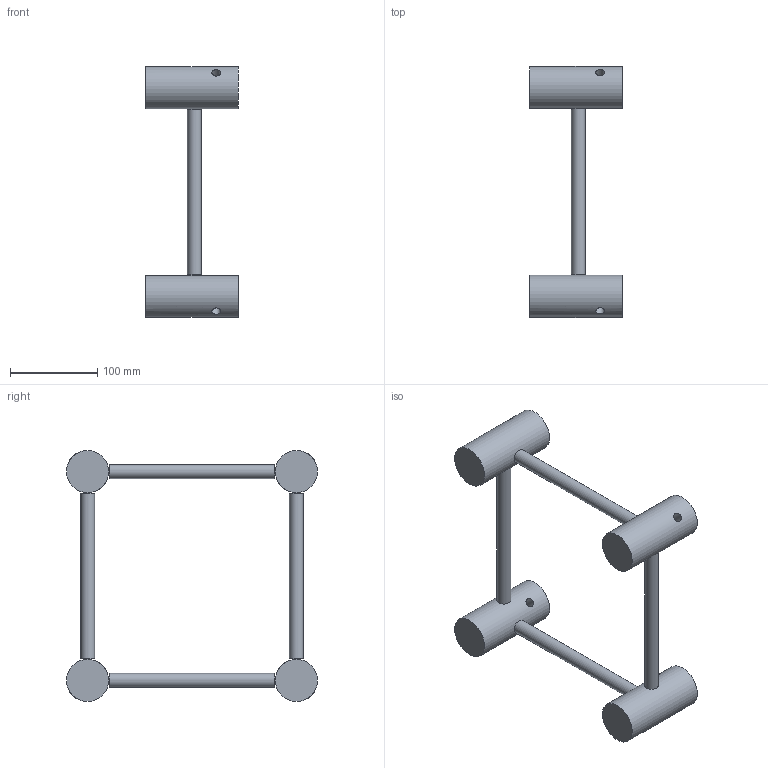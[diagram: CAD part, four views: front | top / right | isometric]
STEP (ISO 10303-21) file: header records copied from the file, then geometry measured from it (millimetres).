
FILE_DESCRIPTION(/* description */ (''),/* implementation_level */ '2;1');
FILE_NAME(/* name */ 'M:\Symbolen_NIEUW\STP\Boxcorner\111130019.stp',/* time_stamp */ '2015-12-28T11:29:23+01:00',/* author */ ('Stephan'),/* organization */ (''),/* preprocessor_version */ 'ST-DEVELOPER v15.6',/* originating_system */ 'Autodesk Inventor 2015',/* authorisation */ '');
FILE_SCHEMA (('AUTOMOTIVE_DESIGN { 1 0 10303 214 3 1 1 }'));
Length unit declared in the file: millimetre
Products named in the file (1): 160025623
Bounding box: 105.5 x 287.12 x 287.12 mm (x, y, z)
Volume: 910523.6 mm3; surface area: 123774.1 mm2
Topology: 8 solids, 8 shells, 28 faces, 48 edges, 32 vertices
Faces by surface type: plane 16, cylinder 12
Full cylindrical faces by diameter (mm): 10 x4, 16 x4, 48.3 x4
Entity records: 953 total; most frequent: CARTESIAN_POINT 373, DIRECTION 90, ORIENTED_EDGE 64, EDGE_LOOP 48, AXIS2_PLACEMENT_3D 45, STYLED_ITEM 36, VERTEX_POINT 32, EDGE_CURVE 32
